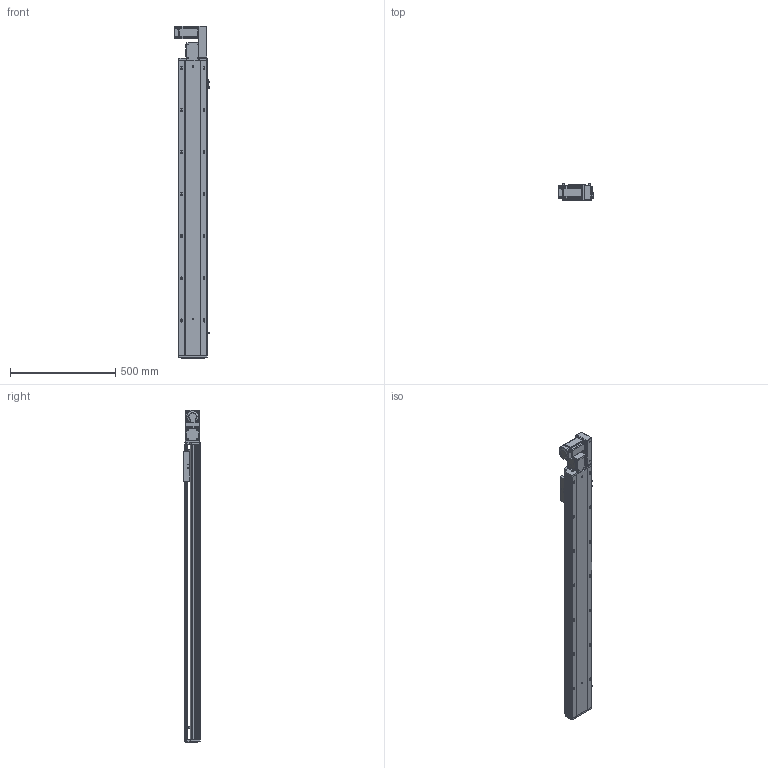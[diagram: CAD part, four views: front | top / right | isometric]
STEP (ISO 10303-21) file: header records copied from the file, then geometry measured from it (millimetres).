
FILE_DESCRIPTION (( 'STEP AP203' ), '1' );
FILE_NAME ('RY140-T-300-RK.SLDASM_1150.step', '2021-03-01T06:46:01', ( '盈信电脑' ), ( '东莞市道滘镇水果街19号' ), 'SwSTEP 2.0', 'SolidWorks 2012', '' );
FILE_SCHEMA (( 'CONFIG_CONTROL_DESIGN' ));
Length unit declared in the file: millimetre
Products named in the file (17): RY140-T-300-DR倰第菁釱_1150; RY140肮祭謫臏賑輸; RY120-T主同步轮轴承压盖; RY140-T-300-RK.SLDASM_1150; RY140-T萇儂欶; 15; RY140-T萇儂假蚾啣; RY120-T蹟翐M4; 滅袉蝶18-10; RY140-T翋肮祭謫盓傅釱; RY120-T肮祭湍揤踡輸1; RY140-T翋肮謫裔啣; RY120-T肮祭湍揤踡輸2; RY120外置感应片(140共用）; 覜茼ん672; RY140-T-300-DR倰第奻裔啣_1150; RY140綴裔啣
Assembly tree (22 placements, depth 2):
  RY140-T-300-RK.SLDASM_1150
    RY140-T-300-DR倰第菁釱_1150
    RY140肮祭謫臏賑輸
    RY140-T-300-DR倰第奻裔啣_1150
    RY140綴裔啣
    覜茼ん672  x3
    RY120外置感应片(140共用）
    RY120-T肮祭湍揤踡輸2
    RY120-T肮祭湍揤踡輸1
    RY140-T翋肮祭謫盓傅釱
    滅袉蝶18-10  x2
    RY140-T翋肮謫裔啣
    RY140-T萇儂欶
    RY140-T萇儂假蚾啣
    RY120-T蹟翐M4  x4
    15
    RY120-T主同步轮轴承压盖
Bounding box: 170.7 x 78 x 1576.5 mm (x, y, z)
Volume: 4357332.4 mm3; surface area: 1670574.3 mm2
Topology: 22 solids, 22 shells, 2687 faces, 7337 edges, 4698 vertices
Faces by surface type: plane 1381, cylinder 976, cone 230, bspline 100
Entity records: 84574 total; most frequent: CARTESIAN_POINT 20577, ORIENTED_EDGE 13138, DIRECTION 12533, EDGE_CURVE 6569, VERTEX_POINT 4297, VECTOR 4217, LINE 4217, AXIS2_PLACEMENT_3D 4158
